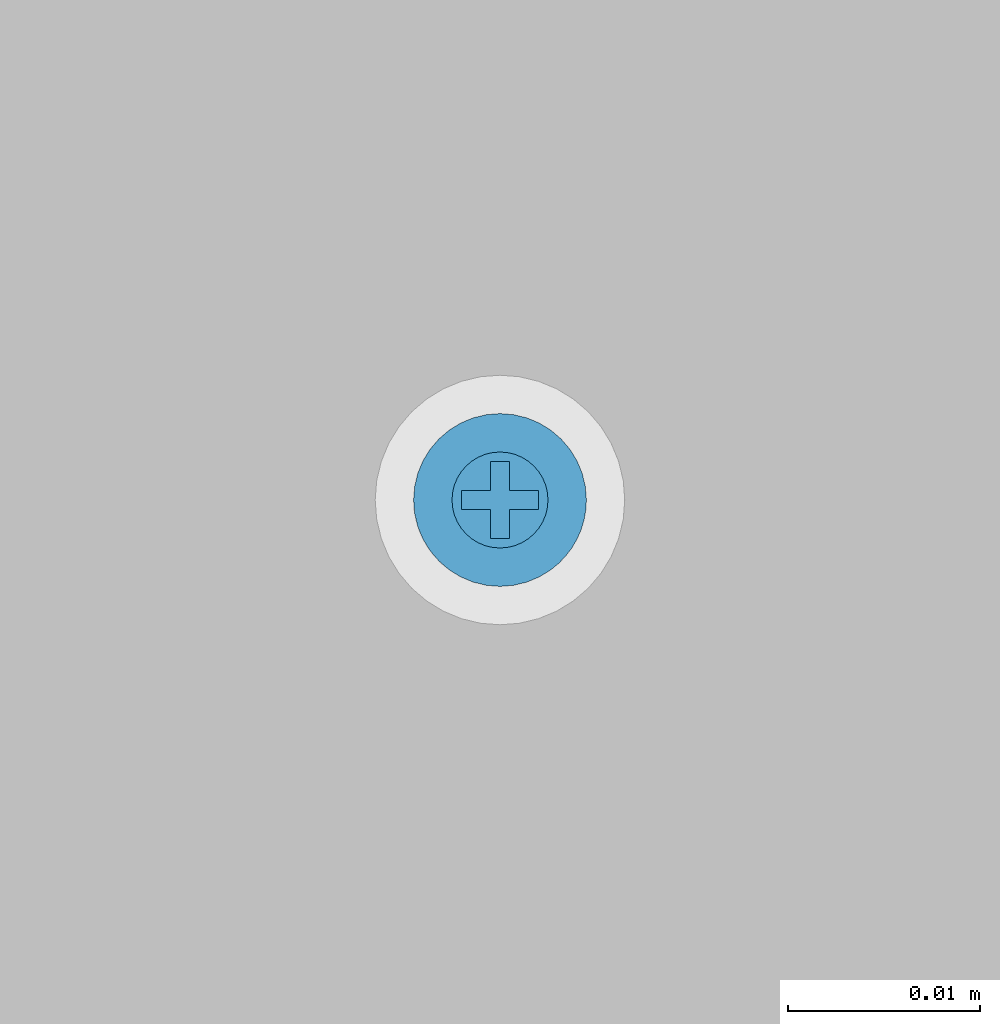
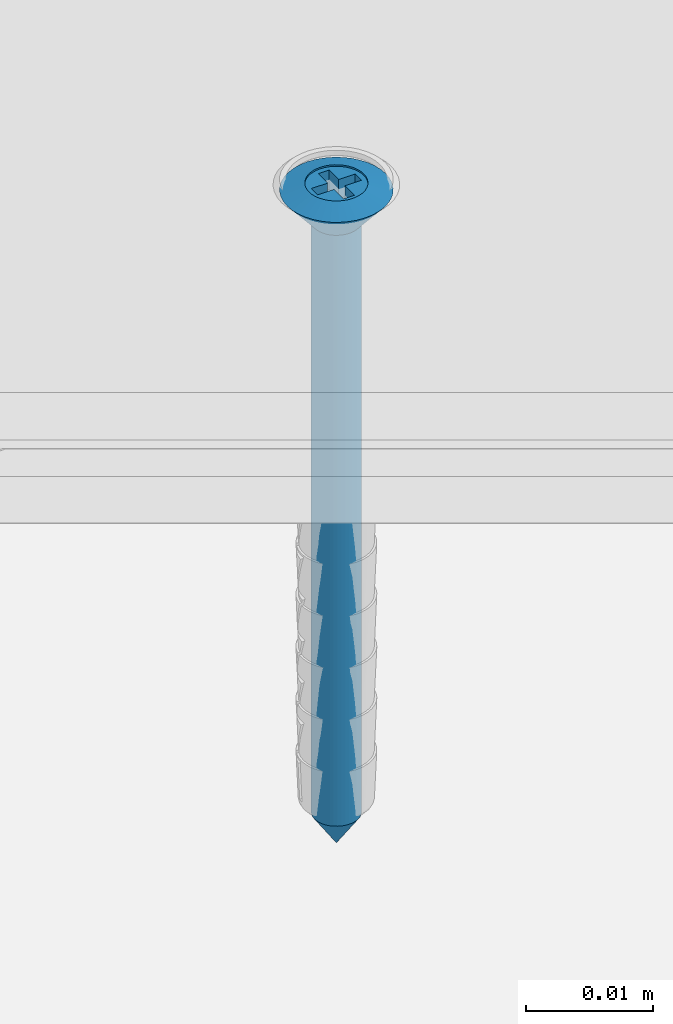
# One storey, part 13 of 92: 1 wall.
"""IFC2X3 building model written with IfcOpenShell, lengths in millimetres."""

from ifc_helpers import new_model, si_unit, frame, origin_with_axes, place, context, subcontext, project, spatial, faceted_brep, material, type_object, element, save


model = new_model("IFC2X3")

# Units and contexts
model_context = context("Model", 3, world=origin_with_axes())
body_context = subcontext(model_context, "Body", "Model", "MODEL_VIEW")
ifc_project = project(units=[si_unit("LENGTHUNIT", "METRE", prefix="MILLI"), si_unit("AREAUNIT", "SQUARE_METRE"), si_unit("VOLUMEUNIT", "CUBIC_METRE")], contexts=[model_context])

# Site, building, storey
site_placement = place(None, origin_with_axes())
site = spatial("IfcSite", under=ifc_project, at=site_placement, Name="Default Site", CompositionType="ELEMENT")
building_placement = place(site_placement, origin_with_axes())
building = spatial("IfcBuilding", under=site, at=building_placement, Name="Default Building", CompositionType="ELEMENT")
storey_placement = place(building_placement, origin_with_axes())
storey = spatial("IfcBuildingStorey", under=building, at=storey_placement, Name="Default Building Storey", CompositionType="ELEMENT", Elevation=0.0)

# Wall
ifc_material = material(Name="Default")
wall_type = type_object("IfcWallType", Name="Kołek rozporowy min. fi 6", PredefinedType="NOTDEFINED")
wall_placement = place(storey_placement, frame((-3376.2832229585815, 1655.5458278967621, 67.99291798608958), z_axis=(0.0, 0.0, 1.0), x_axis=(4.0245584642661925e-16, 1.0, 0.0)))
element("IfcWall", 1, at=wall_placement, inside=storey, type_object=wall_type, material=ifc_material, Name="Kołek rozporowy min. fi 6", context=body_context, shape_type="Brep", body=[
    faceted_brep([(-1438.2587671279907, -3452.579259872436, -0.46425670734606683), (-1435.7895851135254, -3452.970266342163, -3.464256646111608), (-1435.8141422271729, -3453.2833099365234, -3.464256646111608), (-1438.3141994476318, -3453.2833099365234, -0.46425670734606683), (-1438.093900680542, -3451.892614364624, -0.46425670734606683), (-1435.7162714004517, -3452.6650905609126, -3.464256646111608), (-1437.8236532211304, -3451.240301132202, -0.46425670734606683), (-1435.5961084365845, -3452.3751735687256, -3.464256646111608), (-1437.4547004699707, -3450.6382942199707, -0.46425670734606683), (-1435.4321956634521, -3452.107667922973, -3.464256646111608), (-1436.9961023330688, -3450.101137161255, -0.46425670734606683), (-1435.22834777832, -3451.8690109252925, -3.464256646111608), (-1436.4591836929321, -3449.642658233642, -0.46425670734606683), (-1434.9896907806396, -3451.665163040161, -3.464256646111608), (-1435.8570575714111, -3449.2735862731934, -0.46425670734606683), (-1434.7221851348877, -3451.501131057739, -3.464256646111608), (-1435.2047443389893, -3449.0034580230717, -0.46425670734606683), (-1434.4321489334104, -3451.381206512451, -3.464256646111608), (-1434.5180988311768, -3448.838710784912, -0.46425670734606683), (-1434.1269731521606, -3451.307773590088, -3.464256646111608), (-1433.8141679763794, -3448.7831592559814, -0.46425670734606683), (-1433.8141679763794, -3451.28321647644, -3.464256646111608), (-1433.110237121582, -3448.838710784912, -0.46425670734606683), (-1433.5012435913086, -3451.307773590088, -3.464256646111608), (-1432.4235916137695, -3449.0034580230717, -0.46425670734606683), (-1433.1960678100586, -3451.381206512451, -3.464256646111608), (-1431.771159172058, -3449.2735862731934, -0.46425670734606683), (-1432.9061508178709, -3451.501131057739, -3.464256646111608), (-1431.1691522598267, -3449.642658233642, -0.46425670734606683), (-1432.6385259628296, -3451.665163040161, -3.464256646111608), (-1430.6321144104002, -3450.101137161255, -0.46425670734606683), (-1432.3999881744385, -3451.8690109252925, -3.464256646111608), (-1430.1735162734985, -3450.6382942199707, -0.46425670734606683), (-1432.1961402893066, -3452.107667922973, -3.464256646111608), (-1429.8045635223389, -3451.240301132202, -0.46425670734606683), (-1432.0321083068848, -3452.3751735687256, -3.464256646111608), (-1429.5344352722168, -3451.892614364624, -0.46425670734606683), (-1431.9120645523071, -3452.6650905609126, -3.464256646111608), (-1431.814193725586, -3453.2833099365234, -3.464256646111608), (-1429.314136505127, -3453.2833099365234, -0.46425670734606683), (-1429.369568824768, -3453.9871215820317, -0.46425670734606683), (-1431.8387508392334, -3453.5961151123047, -3.464256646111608), (-1431.8387508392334, -3452.970266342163, -3.464256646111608), (-1429.369568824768, -3452.579259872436, -0.46425670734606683), (-1429.5344352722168, -3454.6737670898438, -0.46425670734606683), (-1431.9120645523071, -3453.9012908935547, -3.464256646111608), (-1429.8045635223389, -3455.3260803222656, -0.46425670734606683), (-1432.0321083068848, -3454.191207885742, -3.464256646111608), (-1430.1735162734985, -3455.9283256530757, -0.46425670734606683), (-1432.1961402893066, -3454.458713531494, -3.464256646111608), (-1430.6321144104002, -3456.465244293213, -0.46425670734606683), (-1432.3999881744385, -3454.6973705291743, -3.464256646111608), (-1431.1691522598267, -3456.923723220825, -0.46425670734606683), (-1432.6385259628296, -3454.9012184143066, -3.464256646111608), (-1431.771159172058, -3457.2927951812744, -0.46425670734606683), (-1432.9061508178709, -3455.065250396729, -3.464256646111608), (-1432.4235916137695, -3457.562923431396, -0.46425670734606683), (-1433.1960678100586, -3455.1854133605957, -3.464256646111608), (-1433.110237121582, -3457.7279090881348, -0.46425670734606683), (-1433.5012435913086, -3455.25860786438, -3.464256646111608), (-1433.8141679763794, -3457.7832221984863, -0.46425670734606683), (-1433.8141679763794, -3455.283164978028, -3.464256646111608), (-1434.1269731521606, -3455.25860786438, -3.464256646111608), (-1434.3430995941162, -3457.7519893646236, -0.46425670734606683), (-1434.4321489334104, -3455.1854133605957, -3.464256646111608), (-1434.8646402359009, -3457.6590061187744, -0.46425670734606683), (-1435.3716373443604, -3457.504987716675, -0.46425670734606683), (-1434.7221851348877, -3455.065250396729, -3.464256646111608), (-1435.8570575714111, -3457.2927951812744, -0.46425670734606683), (-1436.3142251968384, -3457.024812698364, -0.46425670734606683), (-1435.22834777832, -3454.6973705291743, -3.464256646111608), (-1434.9896907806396, -3454.9012184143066, -3.464256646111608), (-1436.7367029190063, -3456.705093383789, -0.46425670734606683), (-1437.118649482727, -3456.337928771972, -0.46425670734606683), (-1435.4321956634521, -3454.458713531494, -3.464256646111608), (-1437.4547004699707, -3455.9283256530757, -0.46425670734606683), (-1437.8236532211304, -3455.3260803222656, -0.46425670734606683), (-1435.5961084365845, -3454.191207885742, -3.464256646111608), (-1438.093900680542, -3454.6737670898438, -0.46425670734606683), (-1435.7162714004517, -3453.9012908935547, -3.464256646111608), (-1438.2587671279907, -3453.9871215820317, -0.46425670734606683), (-1435.7895851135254, -3453.5961151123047, -3.464256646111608), (-1433.8141679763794, -3455.7831287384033, 0.20073754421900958), (-1434.2052936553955, -3455.752372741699, 0.20073754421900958), (-1434.5866441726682, -3455.6608200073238, 0.20073754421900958), (-1434.9491596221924, -3455.510854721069, 0.20073754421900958), (-1435.2836608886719, -3455.305814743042, 0.20073754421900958), (-1435.581922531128, -3455.0509452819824, 0.20073754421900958), (-1435.836672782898, -3454.7526836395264, 0.20073754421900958), (-1436.0417127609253, -3454.418182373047, 0.20073754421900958), (-1436.1917972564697, -3454.0557861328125, 0.20073754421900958), (-1436.2833499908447, -3453.6743164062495, 0.20073754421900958), (-1436.3141059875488, -3453.2833099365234, 0.20073754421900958), (-1436.2833499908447, -3452.8920650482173, 0.20073754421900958), (-1436.1917972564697, -3452.5105953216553, 0.20073754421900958), (-1436.0417127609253, -3452.148199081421, 0.20073754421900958), (-1435.836672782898, -3451.8136978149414, 0.20073754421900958), (-1435.581922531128, -3451.5154361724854, 0.20073754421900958), (-1435.2836608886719, -3451.260566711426, 0.20073754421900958), (-1434.9491596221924, -3451.0557651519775, 0.20073754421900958), (-1434.5866441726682, -3450.905561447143, 0.20073754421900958), (-1433.8141679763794, -3450.7832527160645, 0.20073754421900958), (-1433.4230422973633, -3450.8140087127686, 0.20073754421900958), (-1434.2052936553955, -3450.8140087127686, 0.20073754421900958), (-1433.0415725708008, -3450.905561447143, 0.20073754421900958), (-1432.6791763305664, -3451.0557651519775, 0.20073754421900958), (-1432.344675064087, -3451.260566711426, 0.20073754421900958), (-1432.0464134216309, -3451.5154361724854, 0.20073754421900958), (-1431.7916631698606, -3451.8136978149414, 0.20073754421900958), (-1431.5866231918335, -3452.148199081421, 0.20073754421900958), (-1431.436538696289, -3452.5105953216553, 0.20073754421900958), (-1431.344985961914, -3452.8920650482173, 0.20073754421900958), (-1431.3141107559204, -3453.2833099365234, 0.20073754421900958), (-1431.344985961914, -3453.6743164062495, 0.20073754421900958), (-1431.436538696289, -3454.0557861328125, 0.20073754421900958), (-1431.5866231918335, -3454.418182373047, 0.20073754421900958), (-1431.7916631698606, -3454.7526836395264, 0.20073754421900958), (-1432.0464134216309, -3455.0509452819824, 0.20073754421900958), (-1432.344675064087, -3455.305814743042, 0.20073754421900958), (-1432.6791763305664, -3455.510854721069, 0.20073754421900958), (-1433.0415725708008, -3455.6608200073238, 0.20073754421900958), (-1433.4230422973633, -3455.752372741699, 0.20073754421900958), (-1435.8141422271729, -3453.2833099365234, -60.464255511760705), (-1435.7895851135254, -3452.970266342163, -60.464255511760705), (-1433.8141679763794, -3453.2833099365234, -63.46425414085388), (-1435.7162714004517, -3452.6650905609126, -60.464255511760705), (-1435.5961084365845, -3452.3751735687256, -60.464255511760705), (-1435.4321956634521, -3452.107667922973, -60.464255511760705), (-1435.22834777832, -3451.8690109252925, -60.464255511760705), (-1434.9896907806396, -3451.665163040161, -60.464255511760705), (-1434.7221851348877, -3451.501131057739, -60.464255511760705), (-1434.4321489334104, -3451.381206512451, -60.464255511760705), (-1434.1269731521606, -3451.307773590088, -60.464255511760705), (-1433.8141679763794, -3451.28321647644, -60.464255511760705), (-1433.5012435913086, -3451.307773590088, -60.464255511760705), (-1433.1960678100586, -3451.381206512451, -60.464255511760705), (-1432.9061508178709, -3451.501131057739, -60.464255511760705), (-1432.6385259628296, -3451.665163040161, -60.464255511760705), (-1432.3999881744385, -3451.8690109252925, -60.464255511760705), (-1432.1961402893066, -3452.107667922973, -60.464255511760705), (-1432.0321083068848, -3452.3751735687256, -60.464255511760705), (-1431.9120645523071, -3452.6650905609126, -60.464255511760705), (-1431.8387508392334, -3452.970266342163, -60.464255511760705), (-1431.814193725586, -3453.2833099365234, -60.464255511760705), (-1431.8387508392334, -3453.5961151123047, -60.464255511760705), (-1431.9120645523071, -3453.9012908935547, -60.464255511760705), (-1432.0321083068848, -3454.191207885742, -60.464255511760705), (-1432.1961402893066, -3454.458713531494, -60.464255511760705), (-1432.3999881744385, -3454.6973705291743, -60.464255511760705), (-1432.6385259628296, -3454.9012184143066, -60.464255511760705), (-1432.9061508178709, -3455.065250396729, -60.464255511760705), (-1433.1960678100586, -3455.1854133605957, -60.464255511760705), (-1433.5012435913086, -3455.25860786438, -60.464255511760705), (-1433.8141679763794, -3455.283164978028, -60.464255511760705), (-1434.1269731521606, -3455.25860786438, -60.464255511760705), (-1434.4321489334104, -3455.1854133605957, -60.464255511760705), (-1434.7221851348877, -3455.065250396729, -60.464255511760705), (-1434.9896907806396, -3454.9012184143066, -60.464255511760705), (-1435.22834777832, -3454.6973705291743, -60.464255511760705), (-1435.4321956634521, -3454.458713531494, -60.464255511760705), (-1435.5961084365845, -3454.191207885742, -60.464255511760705), (-1435.7162714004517, -3453.9012908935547, -60.464255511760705), (-1435.7895851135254, -3453.5961151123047, -60.464255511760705), (-1436.1917972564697, -3454.0557861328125, 0.049999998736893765), (-1436.0417127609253, -3454.418182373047, 0.049999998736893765), (-1435.836672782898, -3454.7526836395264, 0.049999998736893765), (-1435.581922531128, -3455.0509452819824, 0.049999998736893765), (-1435.2836608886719, -3455.305814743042, 0.049999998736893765), (-1434.9491596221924, -3455.510854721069, 0.049999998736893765), (-1434.5866441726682, -3455.6608200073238, 0.049999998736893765), (-1434.2052936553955, -3455.752372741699, 0.049999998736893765), (-1433.8141679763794, -3455.7831287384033, 0.049999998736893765), (-1433.4230422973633, -3455.752372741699, 0.049999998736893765), (-1433.0415725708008, -3455.6608200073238, 0.049999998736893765), (-1432.6791763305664, -3455.510854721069, 0.049999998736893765), (-1432.344675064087, -3455.305814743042, 0.049999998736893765), (-1432.0464134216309, -3455.0509452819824, 0.049999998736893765), (-1431.7916631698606, -3454.7526836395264, 0.049999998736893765), (-1431.5866231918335, -3454.418182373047, 0.049999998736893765), (-1431.436538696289, -3454.0557861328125, 0.049999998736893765), (-1431.344985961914, -3453.6743164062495, 0.049999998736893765), (-1431.3141107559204, -3453.2833099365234, 0.049999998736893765), (-1431.344985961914, -3452.8920650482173, 0.049999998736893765), (-1431.436538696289, -3452.5105953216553, 0.049999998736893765), (-1431.5866231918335, -3452.148199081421, 0.049999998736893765), (-1431.7916631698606, -3451.8136978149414, 0.049999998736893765), (-1432.0464134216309, -3451.5154361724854, 0.049999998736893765), (-1432.344675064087, -3451.260566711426, 0.049999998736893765), (-1432.6791763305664, -3451.0557651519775, 0.049999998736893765), (-1433.0415725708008, -3450.905561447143, 0.049999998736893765), (-1433.4230422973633, -3450.8140087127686, 0.049999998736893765), (-1433.8141679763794, -3450.7832527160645, 0.049999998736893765), (-1434.2052936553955, -3450.8140087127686, 0.049999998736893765), (-1434.5866441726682, -3450.905561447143, 0.049999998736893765), (-1434.9491596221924, -3451.0557651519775, 0.049999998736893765), (-1435.2836608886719, -3451.260566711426, 0.049999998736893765), (-1435.581922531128, -3451.5154361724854, 0.049999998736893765), (-1435.836672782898, -3451.8136978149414, 0.049999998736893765), (-1436.0417127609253, -3452.148199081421, 0.049999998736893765), (-1436.1917972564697, -3452.5105953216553, 0.049999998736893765), (-1436.2833499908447, -3452.8920650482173, 0.049999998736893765), (-1436.3141059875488, -3453.2833099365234, 0.049999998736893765), (-1436.2833499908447, -3453.6743164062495, 0.049999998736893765), (-1434.3141317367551, -3453.7832736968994, 0.049999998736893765), (-1435.8141422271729, -3453.7832736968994, 0.049999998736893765), (-1435.8141422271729, -3452.7831077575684, 0.049999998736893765), (-1434.3141317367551, -3452.7831077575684, 0.049999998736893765), (-1434.3141317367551, -3451.28321647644, 0.049999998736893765), (-1433.3142042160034, -3451.28321647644, 0.049999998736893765), (-1433.3142042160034, -3452.7831077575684, 0.049999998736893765), (-1431.814193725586, -3452.7831077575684, 0.049999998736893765), (-1431.814193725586, -3453.7832736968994, 0.049999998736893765), (-1433.3142042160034, -3453.7832736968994, 0.049999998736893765), (-1433.3142042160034, -3455.283164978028, 0.049999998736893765), (-1434.3141317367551, -3455.283164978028, 0.049999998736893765), (-1435.8141422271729, -3452.7831077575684, -1.799262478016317), (-1435.8141422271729, -3453.7832736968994, -1.799262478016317), (-1434.3141317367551, -3453.7832736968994, -1.799262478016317), (-1434.3141317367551, -3455.283164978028, -1.799262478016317), (-1433.3142042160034, -3455.283164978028, -1.799262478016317), (-1433.3142042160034, -3453.7832736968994, -1.799262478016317), (-1431.814193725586, -3453.7832736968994, -1.799262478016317), (-1431.814193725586, -3452.7831077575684, -1.799262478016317), (-1433.3142042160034, -3452.7831077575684, -1.799262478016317), (-1433.3142042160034, -3451.28321647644, -1.799262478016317), (-1434.3141317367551, -3451.28321647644, -1.799262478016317), (-1434.3141317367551, -3452.7831077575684, -1.799262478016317)], [[[0, 1, 2, 3]], [[1, 0, 4, 5]], [[5, 4, 6, 7]], [[8, 9, 7, 6]], [[9, 8, 10, 11]], [[12, 13, 11, 10]], [[13, 12, 14, 15]], [[15, 14, 16, 17]], [[18, 19, 17, 16]], [[19, 18, 20, 21]], [[22, 23, 21, 20]], [[23, 22, 24, 25]], [[25, 24, 26, 27]], [[28, 29, 27, 26]], [[29, 28, 30, 31]], [[32, 33, 31, 30]], [[33, 32, 34, 35]], [[35, 34, 36, 37]], [[38, 39, 40, 41]], [[42, 43, 39, 38]], [[43, 42, 37, 36]], [[41, 40, 44, 45]], [[45, 44, 46, 47]], [[48, 49, 47, 46]], [[49, 48, 50, 51]], [[52, 53, 51, 50]], [[53, 52, 54, 55]], [[55, 54, 56, 57]], [[58, 59, 57, 56]], [[59, 58, 60, 61]], [[62, 60, 63]], [[62, 61, 60]], [[63, 64, 62]], [[63, 65, 64]], [[64, 65, 66]], [[66, 67, 64]], [[66, 68, 67]], [[69, 70, 71]], [[69, 72, 70]], [[71, 68, 69]], [[71, 67, 68]], [[72, 73, 70]], [[74, 73, 75]], [[74, 70, 73]], [[74, 75, 76, 77]], [[77, 76, 78, 79]], [[80, 81, 79, 78]], [[81, 80, 3, 2]], [[63, 82, 83]], [[63, 60, 82]], [[83, 65, 63]], [[83, 84, 65]], [[84, 68, 66]], [[84, 85, 68]], [[66, 65, 84]], [[69, 85, 86]], [[69, 68, 85]], [[87, 73, 72]], [[72, 86, 87]], [[72, 69, 86]], [[75, 87, 88]], [[75, 73, 87]], [[75, 88, 89, 76]], [[76, 89, 90, 78]], [[91, 80, 78, 90]], [[80, 91, 92, 3]], [[93, 0, 3, 92]], [[0, 93, 94, 4]], [[4, 94, 95, 6]], [[96, 8, 6, 95]], [[8, 96, 97, 10]], [[98, 12, 10, 97]], [[12, 98, 99, 14]], [[14, 99, 100, 16]], [[20, 101, 102, 22]], [[18, 103, 101, 20]], [[103, 18, 16, 100]], [[22, 102, 104, 24]], [[24, 104, 105, 26]], [[106, 28, 26, 105]], [[28, 106, 107, 30]], [[108, 32, 30, 107]], [[32, 108, 109, 34]], [[34, 109, 110, 36]], [[111, 43, 36, 110]], [[43, 111, 112, 39]], [[113, 40, 39, 112]], [[40, 113, 114, 44]], [[44, 114, 115, 46]], [[116, 48, 46, 115]], [[48, 116, 117, 50]], [[118, 52, 50, 117]], [[52, 118, 119, 54]], [[54, 119, 120, 56]], [[121, 58, 56, 120]], [[58, 121, 82, 60]], [[122, 123, 124]], [[123, 125, 124]], [[125, 126, 124]], [[124, 126, 127]], [[127, 128, 124]], [[124, 128, 129]], [[129, 130, 124]], [[130, 131, 124]], [[124, 131, 132]], [[132, 133, 124]], [[124, 133, 134]], [[134, 135, 124]], [[135, 136, 124]], [[124, 136, 137]], [[137, 138, 124]], [[124, 138, 139]], [[139, 140, 124]], [[140, 141, 124]], [[124, 141, 142]], [[142, 143, 124]], [[124, 143, 144]], [[144, 145, 124]], [[145, 146, 124]], [[124, 146, 147]], [[147, 148, 124]], [[124, 148, 149]], [[149, 150, 124]], [[150, 151, 124]], [[124, 151, 152]], [[152, 153, 124]], [[124, 153, 154]], [[154, 155, 124]], [[155, 156, 124]], [[124, 156, 157]], [[157, 158, 124]], [[124, 158, 159]], [[159, 160, 124]], [[160, 161, 124]], [[124, 161, 162]], [[124, 162, 122]], [[1, 123, 122, 2]], [[123, 1, 5, 125]], [[125, 5, 7, 126]], [[9, 127, 126, 7]], [[127, 9, 11, 128]], [[13, 129, 128, 11]], [[129, 13, 15, 130]], [[130, 15, 17, 131]], [[19, 132, 131, 17]], [[132, 19, 21, 133]], [[23, 134, 133, 21]], [[134, 23, 25, 135]], [[135, 25, 27, 136]], [[29, 137, 136, 27]], [[137, 29, 31, 138]], [[33, 139, 138, 31]], [[139, 33, 35, 140]], [[140, 35, 37, 141]], [[143, 38, 41, 144]], [[142, 42, 38, 143]], [[42, 142, 141, 37]], [[144, 41, 45, 145]], [[145, 45, 47, 146]], [[49, 147, 146, 47]], [[147, 49, 51, 148]], [[53, 149, 148, 51]], [[149, 53, 55, 150]], [[150, 55, 57, 151]], [[59, 152, 151, 57]], [[152, 59, 61, 153]], [[62, 154, 153, 61]], [[154, 62, 64, 155]], [[155, 64, 67, 156]], [[71, 157, 156, 67]], [[157, 71, 70, 158]], [[74, 159, 158, 70]], [[159, 74, 77, 160]], [[160, 77, 79, 161]], [[81, 162, 161, 79]], [[162, 81, 2, 122]], [[163, 164, 165, 166, 167, 168, 169, 170, 171, 172, 173, 174, 175, 176, 177, 178, 179, 180, 181, 182, 183, 184, 185, 186, 187, 188, 189, 190, 191, 192, 193, 194, 195, 196, 197, 198, 199, 200, 201, 202], [203, 204, 205, 206, 207, 208, 209, 210, 211, 212, 213, 214]], [[113, 112, 181, 180]], [[180, 179, 114, 113]], [[179, 178, 115, 114]], [[116, 115, 178, 177]], [[177, 176, 117, 116]], [[118, 117, 176, 175]], [[175, 174, 119, 118]], [[174, 173, 120, 119]], [[121, 120, 173, 172]], [[172, 171, 82, 121]], [[83, 82, 171, 170]], [[170, 169, 84, 83]], [[169, 168, 85, 84]], [[86, 85, 168, 167]], [[167, 166, 87, 86]], [[88, 87, 166, 165]], [[165, 164, 89, 88]], [[164, 163, 90, 89]], [[201, 200, 93, 92]], [[202, 201, 92, 91]], [[91, 90, 163, 202]], [[200, 199, 94, 93]], [[199, 198, 95, 94]], [[96, 95, 198, 197]], [[197, 196, 97, 96]], [[98, 97, 196, 195]], [[195, 194, 99, 98]], [[194, 193, 100, 99]], [[103, 100, 193, 192]], [[192, 191, 101, 103]], [[102, 101, 191, 190]], [[190, 189, 104, 102]], [[189, 188, 105, 104]], [[106, 105, 188, 187]], [[187, 186, 107, 106]], [[108, 107, 186, 185]], [[185, 184, 109, 108]], [[184, 183, 110, 109]], [[111, 110, 183, 182]], [[182, 181, 112, 111]], [[215, 216, 217, 218, 219, 220, 221, 222, 223, 224, 225, 226]], [[224, 208, 207, 225]], [[225, 207, 206, 226]], [[226, 206, 205, 215]], [[215, 205, 204, 216]], [[216, 204, 203, 217]], [[217, 203, 214, 218]], [[218, 214, 213, 219]], [[219, 213, 212, 220]], [[220, 212, 211, 221]], [[221, 211, 210, 222]], [[222, 210, 209, 223]], [[223, 209, 208, 224]]]),
])

save(model, "model.ifc")
